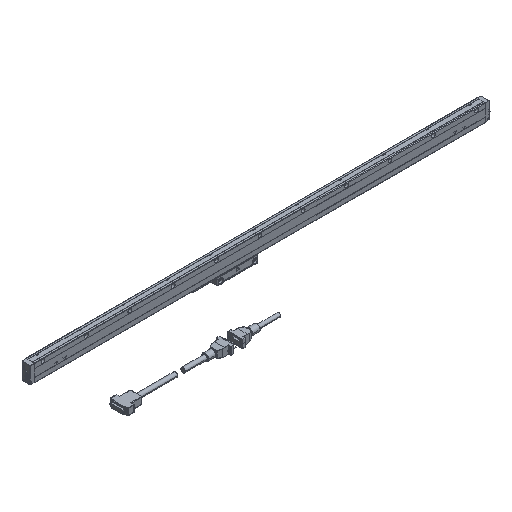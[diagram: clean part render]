
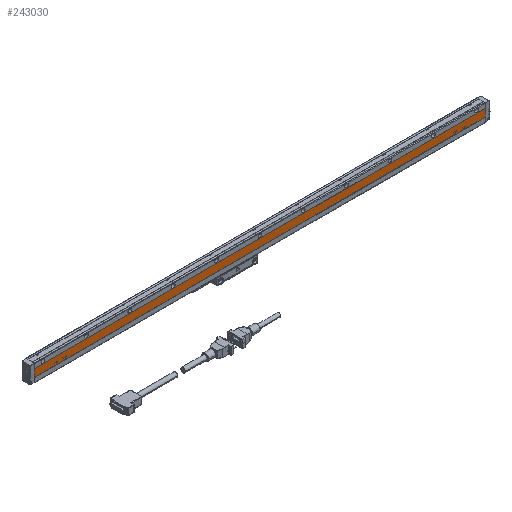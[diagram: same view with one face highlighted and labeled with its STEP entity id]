
A CAD part, isometric view. The second image highlights one B-rep face of the part: STEP entity #243030.
In plain terms, the highlighted planar face has unit normal (0, -1, 0) as drawn and (-1, 0, 0) by its records, which use the part's own axes.
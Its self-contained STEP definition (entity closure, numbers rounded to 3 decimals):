
#140870=CARTESIAN_POINT('',(24.2,75.2,410.));
#140880=VERTEX_POINT('',#140870);
#146360=CARTESIAN_POINT('',(24.2,81.2,484.));
#146370=VERTEX_POINT('',#146360);
#146540=CARTESIAN_POINT('',(24.2,81.2,476.));
#146550=VERTEX_POINT('',#146540);
#146580=CARTESIAN_POINT('',(24.2,81.2,400.));
#146590=DIRECTION('',(0.,0.,1.));
#146600=VECTOR('',#146590,1.);
#146610=LINE('',#146580,#146600);
#146620=EDGE_CURVE('',#146550,#146370,#146610,.T.);
#153200=CARTESIAN_POINT('',(24.2,75.2,1380.));
#153210=VERTEX_POINT('',#153200);
#153290=CARTESIAN_POINT('',(24.2,81.2,1384.));
#153300=VERTEX_POINT('',#153290);
#153330=CARTESIAN_POINT('',(24.2,0.,1329.867));
#153340=DIRECTION('',(0.,-0.832,-0.555));
#153350=VECTOR('',#153340,1.);
#153360=LINE('',#153330,#153350);
#153370=EDGE_CURVE('',#153300,#153210,#153360,.T.);
#157570=CARTESIAN_POINT('',(24.2,92.8,410.));
#157580=VERTEX_POINT('',#157570);
#158690=CARTESIAN_POINT('',(24.2,80.2,457.869));
#158700=VERTEX_POINT('',#158690);
#158870=CARTESIAN_POINT('',(24.2,80.2,456.667));
#158880=VERTEX_POINT('',#158870);
#158910=CARTESIAN_POINT('',(24.2,80.2,400.));
#158920=DIRECTION('',(0.,0.,1.));
#158930=VECTOR('',#158920,1.);
#158940=LINE('',#158910,#158930);
#158950=EDGE_CURVE('',#158880,#158700,#158940,.T.);
#159090=CARTESIAN_POINT('',(24.2,75.2,460.));
#159100=VERTEX_POINT('',#159090);
#159270=CARTESIAN_POINT('',(24.2,80.2,463.333));
#159280=VERTEX_POINT('',#159270);
#159310=CARTESIAN_POINT('',(24.2,0.,409.867));
#159320=DIRECTION('',(0.,-0.832,-0.555));
#159330=VECTOR('',#159320,1.);
#159340=LINE('',#159310,#159330);
#159350=EDGE_CURVE('',#159280,#159100,#159340,.T.);
#163460=CARTESIAN_POINT('',(24.2,0.,510.133));
#163470=DIRECTION('',(0.,0.832,-0.555));
#163480=VECTOR('',#163470,1.);
#163490=LINE('',#163460,#163480);
#163500=EDGE_CURVE('',#159100,#158880,#163490,.T.);
#166150=CARTESIAN_POINT('',(24.2,80.2,462.131));
#166160=VERTEX_POINT('',#166150);
#166330=CARTESIAN_POINT('',(24.2,77.003,460.));
#166340=VERTEX_POINT('',#166330);
#166370=CARTESIAN_POINT('',(24.2,0.,408.665));
#166380=DIRECTION('',(0.,0.832,0.555));
#166390=VECTOR('',#166380,1.);
#166400=LINE('',#166370,#166390);
#166410=EDGE_CURVE('',#166340,#166160,#166400,.T.);
#169410=CARTESIAN_POINT('',(24.2,0.,410.));
#169420=DIRECTION('',(0.,1.,0.));
#169430=VECTOR('',#169420,1.);
#169440=LINE('',#169410,#169430);
#169450=EDGE_CURVE('',#140880,#157580,#169440,.T.);
#171000=CARTESIAN_POINT('',(24.2,80.2,1397.869));
#171010=VERTEX_POINT('',#171000);
#171090=CARTESIAN_POINT('',(24.2,80.2,1396.667));
#171100=VERTEX_POINT('',#171090);
#171130=CARTESIAN_POINT('',(24.2,80.2,300.));
#171140=DIRECTION('',(0.,0.,1.));
#171150=VECTOR('',#171140,1.);
#171160=LINE('',#171130,#171150);
#171170=EDGE_CURVE('',#171100,#171010,#171160,.T.);
#174560=CARTESIAN_POINT('',(24.2,80.2,400.));
#174570=DIRECTION('',(0.,0.,1.));
#174580=VECTOR('',#174570,1.);
#174590=LINE('',#174560,#174580);
#174600=EDGE_CURVE('',#166160,#159280,#174590,.T.);
#179510=CARTESIAN_POINT('',(24.2,77.003,1400.));
#179520=VERTEX_POINT('',#179510);
#179570=CARTESIAN_POINT('',(24.2,0.,1451.335));
#179580=DIRECTION('',(0.,-0.832,0.555));
#179590=VECTOR('',#179580,1.);
#179600=LINE('',#179570,#179590);
#179610=EDGE_CURVE('',#171010,#179520,#179600,.T.);
#195540=CARTESIAN_POINT('',(24.2,75.2,1400.));
#195550=VERTEX_POINT('',#195540);
#195580=CARTESIAN_POINT('',(24.2,0.,1450.133));
#195590=DIRECTION('',(0.,0.832,-0.555));
#195600=VECTOR('',#195590,1.);
#195610=LINE('',#195580,#195600);
#195620=EDGE_CURVE('',#195550,#171100,#195610,.T.);
#198440=CARTESIAN_POINT('',(24.2,80.2,1403.333));
#198450=VERTEX_POINT('',#198440);
#198480=CARTESIAN_POINT('',(24.2,0.,1349.867));
#198490=DIRECTION('',(0.,-0.832,-0.555));
#198500=VECTOR('',#198490,1.);
#198510=LINE('',#198480,#198500);
#198520=EDGE_CURVE('',#198450,#195550,#198510,.T.);
#204990=CARTESIAN_POINT('',(24.2,80.2,1402.131));
#205000=VERTEX_POINT('',#204990);
#205050=CARTESIAN_POINT('',(24.2,0.,1348.665));
#205060=DIRECTION('',(0.,0.832,0.555));
#205070=VECTOR('',#205060,1.);
#205080=LINE('',#205050,#205070);
#205090=EDGE_CURVE('',#179520,#205000,#205080,.T.);
#205510=CARTESIAN_POINT('',(24.2,75.2,480.));
#205520=VERTEX_POINT('',#205510);
#205550=CARTESIAN_POINT('',(24.2,0.,530.133));
#205560=DIRECTION('',(0.,0.832,-0.555));
#205570=VECTOR('',#205560,1.);
#205580=LINE('',#205550,#205570);
#205590=EDGE_CURVE('',#205520,#146550,#205580,.T.);
#205720=CARTESIAN_POINT('',(24.2,0.,511.335));
#205730=DIRECTION('',(0.,-0.832,0.555));
#205740=VECTOR('',#205730,1.);
#205750=LINE('',#205720,#205740);
#205760=EDGE_CURVE('',#158700,#166340,#205750,.T.);
#206110=CARTESIAN_POINT('',(24.2,81.2,1376.));
#206120=VERTEX_POINT('',#206110);
#206150=CARTESIAN_POINT('',(24.2,81.2,300.));
#206160=DIRECTION('',(0.,0.,1.));
#206170=VECTOR('',#206160,1.);
#206180=LINE('',#206150,#206170);
#206190=EDGE_CURVE('',#206120,#153300,#206180,.T.);
#209220=CARTESIAN_POINT('',(24.2,0.,1430.133));
#209230=DIRECTION('',(0.,0.832,-0.555));
#209240=VECTOR('',#209230,1.);
#209250=LINE('',#209220,#209240);
#209260=EDGE_CURVE('',#153210,#206120,#209250,.T.);
#209390=CARTESIAN_POINT('',(24.2,0.,429.867));
#209400=DIRECTION('',(0.,-0.832,-0.555));
#209410=VECTOR('',#209400,1.);
#209420=LINE('',#209390,#209410);
#209430=EDGE_CURVE('',#146370,#205520,#209420,.T.);
#241360=CARTESIAN_POINT('',(24.2,75.2,1450.));
#241370=VERTEX_POINT('',#241360);
#241400=CARTESIAN_POINT('',(24.2,0.,1450.));
#241410=DIRECTION('',(0.,1.,0.));
#241420=VECTOR('',#241410,1.);
#241430=LINE('',#241400,#241420);
#241440=CARTESIAN_POINT('',(24.2,92.8,1450.));
#241450=VERTEX_POINT('',#241440);
#241460=EDGE_CURVE('',#241370,#241450,#241430,.T.);
#242380=CARTESIAN_POINT('',(24.2,75.2,980.5));
#242390=DIRECTION('',(0.,0.,1.));
#242400=VECTOR('',#242390,1.);
#242410=LINE('',#242380,#242400);
#242420=EDGE_CURVE('',#140880,#159100,#242410,.T.);
#242440=EDGE_CURVE('',#159100,#205520,#242410,.T.);
#242460=CARTESIAN_POINT('',(24.2,75.2,880.5));
#242470=DIRECTION('',(0.,0.,1.));
#242480=VECTOR('',#242470,1.);
#242490=LINE('',#242460,#242480);
#242500=EDGE_CURVE('',#205520,#153210,#242490,.T.);
#242520=EDGE_CURVE('',#153210,#195550,#242490,.T.);
#242540=EDGE_CURVE('',#195550,#241370,#242490,.T.);
#242600=CARTESIAN_POINT('',(24.2,93.,301.));
#242610=DIRECTION('',(1.,0.,0.));
#242620=DIRECTION('',(0.,-1.,0.));
#242630=AXIS2_PLACEMENT_3D('',#242600,#242610,#242620);
#242640=PLANE('',#242630);
#242650=ORIENTED_EDGE('',*,*,#242540,.T.);
#242660=ORIENTED_EDGE('',*,*,#198520,.T.);
#242670=CARTESIAN_POINT('',(24.2,80.2,300.));
#242680=DIRECTION('',(0.,0.,1.));
#242690=VECTOR('',#242680,1.);
#242700=LINE('',#242670,#242690);
#242710=EDGE_CURVE('',#205000,#198450,#242700,.T.);
#242720=ORIENTED_EDGE('',*,*,#242710,.T.);
#242730=ORIENTED_EDGE('',*,*,#205090,.T.);
#242740=ORIENTED_EDGE('',*,*,#179610,.T.);
#242750=ORIENTED_EDGE('',*,*,#171170,.T.);
#242760=ORIENTED_EDGE('',*,*,#195620,.T.);
#242770=ORIENTED_EDGE('',*,*,#242520,.T.);
#242780=ORIENTED_EDGE('',*,*,#153370,.T.);
#242790=ORIENTED_EDGE('',*,*,#206190,.T.);
#242800=ORIENTED_EDGE('',*,*,#209260,.T.);
#242810=ORIENTED_EDGE('',*,*,#242500,.T.);
#242820=ORIENTED_EDGE('',*,*,#209430,.T.);
#242830=ORIENTED_EDGE('',*,*,#146620,.T.);
#242840=ORIENTED_EDGE('',*,*,#205590,.T.);
#242850=ORIENTED_EDGE('',*,*,#242440,.T.);
#242860=ORIENTED_EDGE('',*,*,#159350,.T.);
#242870=ORIENTED_EDGE('',*,*,#174600,.T.);
#242880=ORIENTED_EDGE('',*,*,#166410,.T.);
#242890=ORIENTED_EDGE('',*,*,#205760,.T.);
#242900=ORIENTED_EDGE('',*,*,#158950,.T.);
#242910=ORIENTED_EDGE('',*,*,#163500,.T.);
#242920=ORIENTED_EDGE('',*,*,#242420,.T.);
#242930=ORIENTED_EDGE('',*,*,#169450,.F.);
#242940=CARTESIAN_POINT('',(24.2,92.8,880.5));
#242950=DIRECTION('',(0.,0.,1.));
#242960=VECTOR('',#242950,1.);
#242970=LINE('',#242940,#242960);
#242980=EDGE_CURVE('',#157580,#241450,#242970,.T.);
#242990=ORIENTED_EDGE('',*,*,#242980,.F.);
#243000=ORIENTED_EDGE('',*,*,#241460,.T.);
#243010=EDGE_LOOP('',(#243000,#242990,#242930,#242920,#242910,#242900,
#242890,#242880,#242870,#242860,#242850,#242840,#242830,#242820,#242810,
#242800,#242790,#242780,#242770,#242760,#242750,#242740,#242730,#242720,
#242660,#242650));
#243020=FACE_OUTER_BOUND('',#243010,.T.);
#243030=ADVANCED_FACE('',(#243020),#242640,.F.);
